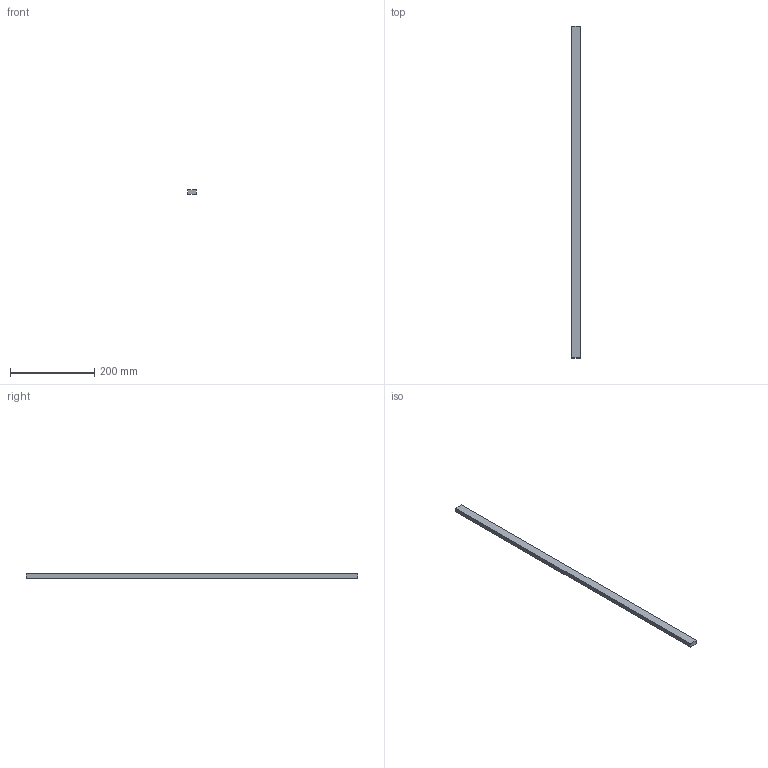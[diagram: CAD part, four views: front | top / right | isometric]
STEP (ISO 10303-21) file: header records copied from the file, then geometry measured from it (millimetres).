
FILE_DESCRIPTION (( 'STEP AP203' ), '1' );
FILE_NAME ('DN51391.STEP', '2025-10-31T07:35:35', ( '' ), ( '' ), 'SwSTEP 2.0', 'SolidWorks 2019', '' );
FILE_SCHEMA (( 'CONFIG_CONTROL_DESIGN' ));
Length unit declared in the file: millimetre
Products named in the file (1): DN51391
Bounding box: 20 x 790 x 10 mm (x, y, z)
Volume: 158000 mm3; surface area: 47800 mm2
Topology: 1 solids, 1 shells, 6 faces, 12 edges, 8 vertices
Faces by surface type: plane 6
Entity records: 233 total; most frequent: CARTESIAN_POINT 27, DIRECTION 26, ORIENTED_EDGE 24, VECTOR 12, LINE 12, EDGE_CURVE 12, PERSON_AND_ORGANIZATION 8, VERTEX_POINT 8
